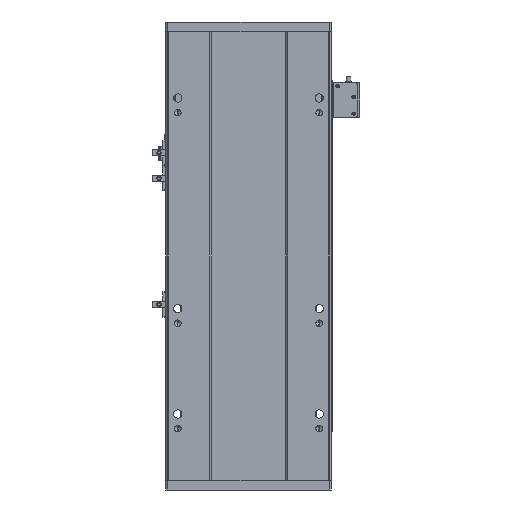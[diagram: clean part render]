
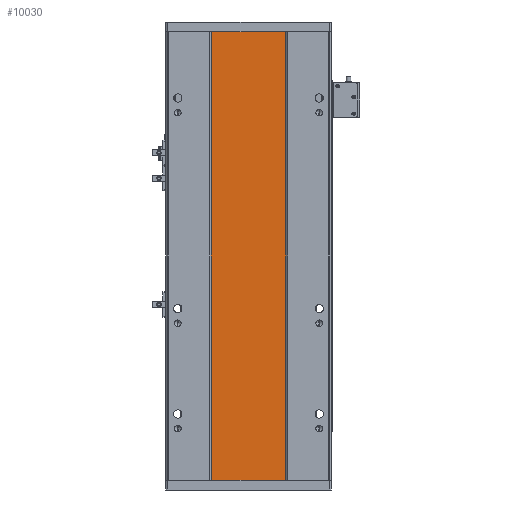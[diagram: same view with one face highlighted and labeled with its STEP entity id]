
A CAD part, front view. The second image highlights one B-rep face of the part: STEP entity #10030.
In plain terms, the highlighted planar face has unit normal (0, -1, 0).
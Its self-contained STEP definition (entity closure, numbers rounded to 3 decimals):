
#77 = CARTESIAN_POINT ( 'NONE',  ( 129.288, 16.9, 460. ) ) ;
#604 = PLANE ( 'NONE',  #13117 ) ;
#730 = EDGE_CURVE ( 'NONE', #11313, #25615, #16104, .T. ) ;
#1145 = LINE ( 'NONE', #10129, #12721 ) ;
#1157 = DIRECTION ( 'NONE',  ( 0., 0., -1. ) ) ;
#1161 = VERTEX_POINT ( 'NONE', #16528 ) ;
#1225 = CARTESIAN_POINT ( 'NONE',  ( 129.288, 16.9, 460. ) ) ;
#2283 = DIRECTION ( 'NONE',  ( 1., 0., 0. ) ) ;
#5034 = VERTEX_POINT ( 'NONE', #1225 ) ;
#6118 = DIRECTION ( 'NONE',  ( 1., 0., 0. ) ) ;
#8491 = VECTOR ( 'NONE', #6118, 1000. ) ;
#8980 = CARTESIAN_POINT ( 'NONE',  ( 205.288, 16.9, 460. ) ) ;
#9068 = DIRECTION ( 'NONE',  ( 0., 1., 0. ) ) ;
#10030 = ADVANCED_FACE ( 'NONE', ( #12073 ), #604, .F. ) ;
#10129 = CARTESIAN_POINT ( 'NONE',  ( 205.288, 16.9, 460. ) ) ;
#11313 = VERTEX_POINT ( 'NONE', #16863 ) ;
#12073 = FACE_OUTER_BOUND ( 'NONE', #19647, .T. ) ;
#12688 = ORIENTED_EDGE ( 'NONE', *, *, #13052, .F. ) ;
#12721 = VECTOR ( 'NONE', #27121, 1000. ) ;
#13052 = EDGE_CURVE ( 'NONE', #5034, #1161, #19888, .T. ) ;
#13117 = AXIS2_PLACEMENT_3D ( 'NONE', #8980, #9068, #15463 ) ;
#13252 = EDGE_CURVE ( 'NONE', #5034, #11313, #15272, .T. ) ;
#15272 = LINE ( 'NONE', #15837, #20557 ) ;
#15358 = ORIENTED_EDGE ( 'NONE', *, *, #13252, .T. ) ;
#15463 = DIRECTION ( 'NONE',  ( -1., 0., 0. ) ) ;
#15837 = CARTESIAN_POINT ( 'NONE',  ( 129.288, 16.9, 460. ) ) ;
#16104 = LINE ( 'NONE', #21110, #8491 ) ;
#16528 = CARTESIAN_POINT ( 'NONE',  ( 205.288, 16.9, 460. ) ) ;
#16863 = CARTESIAN_POINT ( 'NONE',  ( 129.288, 16.9, 0. ) ) ;
#17895 = VECTOR ( 'NONE', #2283, 1000. ) ;
#18470 = ORIENTED_EDGE ( 'NONE', *, *, #20427, .F. ) ;
#18844 = CARTESIAN_POINT ( 'NONE',  ( 205.288, 16.9, 0. ) ) ;
#19647 = EDGE_LOOP ( 'NONE', ( #21792, #18470, #12688, #15358 ) ) ;
#19888 = LINE ( 'NONE', #77, #17895 ) ;
#20427 = EDGE_CURVE ( 'NONE', #1161, #25615, #1145, .T. ) ;
#20557 = VECTOR ( 'NONE', #1157, 1000. ) ;
#21110 = CARTESIAN_POINT ( 'NONE',  ( 205.288, 16.9, 0. ) ) ;
#21792 = ORIENTED_EDGE ( 'NONE', *, *, #730, .T. ) ;
#25615 = VERTEX_POINT ( 'NONE', #18844 ) ;
#27121 = DIRECTION ( 'NONE',  ( 0., 0., -1. ) ) ;
